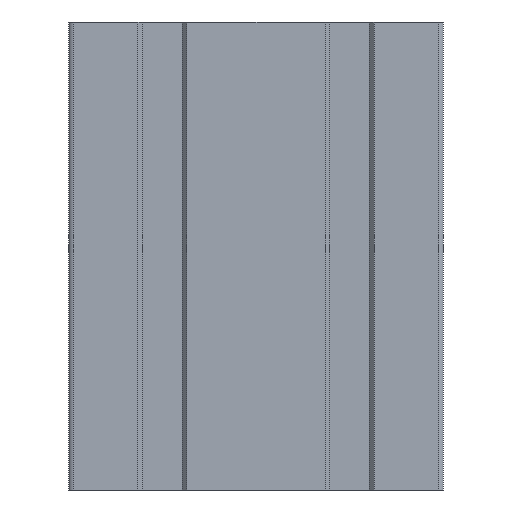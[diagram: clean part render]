
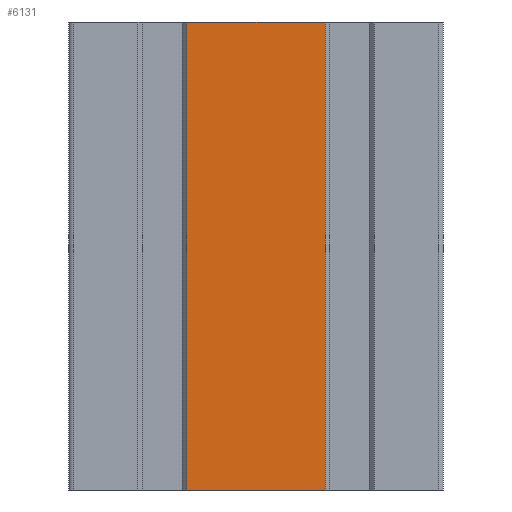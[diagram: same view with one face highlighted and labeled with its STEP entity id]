
A CAD part, left-side view. The second image highlights one B-rep face of the part: STEP entity #6131.
In plain terms, the highlighted planar face has unit normal (-1, 0, 0).
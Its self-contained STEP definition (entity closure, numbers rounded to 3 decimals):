
#756=CARTESIAN_POINT('',(-20.,5.25,0.0));
#757=VERTEX_POINT('',#756);
#764=CARTESIAN_POINT('',(-20.,34.75,0.0));
#765=VERTEX_POINT('',#764);
#766=CARTESIAN_POINT('',(-20.0,5.25,0.0));
#767=DIRECTION('',(0.0,1.0,0.0));
#768=VECTOR('',#767,29.5);
#769=LINE('',#766,#768);
#770=EDGE_CURVE('',#757,#765,#769,.T.);
#3894=CARTESIAN_POINT('',(-20.,34.75,100.0));
#3895=VERTEX_POINT('',#3894);
#3902=CARTESIAN_POINT('',(-20.,5.25,100.0));
#3903=VERTEX_POINT('',#3902);
#3904=CARTESIAN_POINT('',(-20.,34.75,100.0));
#3905=DIRECTION('',(0.0,-1.0,0.0));
#3906=VECTOR('',#3905,29.5);
#3907=LINE('',#3904,#3906);
#3908=EDGE_CURVE('',#3895,#3903,#3907,.T.);
#6110=CARTESIAN_POINT('',(-20.,0.,0.0));
#6111=DIRECTION('',(-1.0,0.0,0.0));
#6112=DIRECTION('',(0.0,0.0,1.0));
#6113=AXIS2_PLACEMENT_3D('',#6110,#6111,#6112);
#6114=PLANE('',#6113);
#6115=ORIENTED_EDGE('',*,*,#3908,.F.);
#6116=CARTESIAN_POINT('',(-20.,34.75,0.0));
#6117=DIRECTION('',(0.0,0.0,1.0));
#6118=VECTOR('',#6117,100.0);
#6119=LINE('',#6116,#6118);
#6120=EDGE_CURVE('',#765,#3895,#6119,.T.);
#6121=ORIENTED_EDGE('',*,*,#6120,.F.);
#6122=ORIENTED_EDGE('',*,*,#770,.F.);
#6123=CARTESIAN_POINT('',(-20.,5.25,100.0));
#6124=DIRECTION('',(0.0,0.0,-1.0));
#6125=VECTOR('',#6124,100.0);
#6126=LINE('',#6123,#6125);
#6127=EDGE_CURVE('',#3903,#757,#6126,.T.);
#6128=ORIENTED_EDGE('',*,*,#6127,.F.);
#6129=EDGE_LOOP('',(#6115,#6121,#6122,#6128));
#6130=FACE_OUTER_BOUND('',#6129,.T.);
#6131=ADVANCED_FACE('',(#6130),#6114,.T.);
